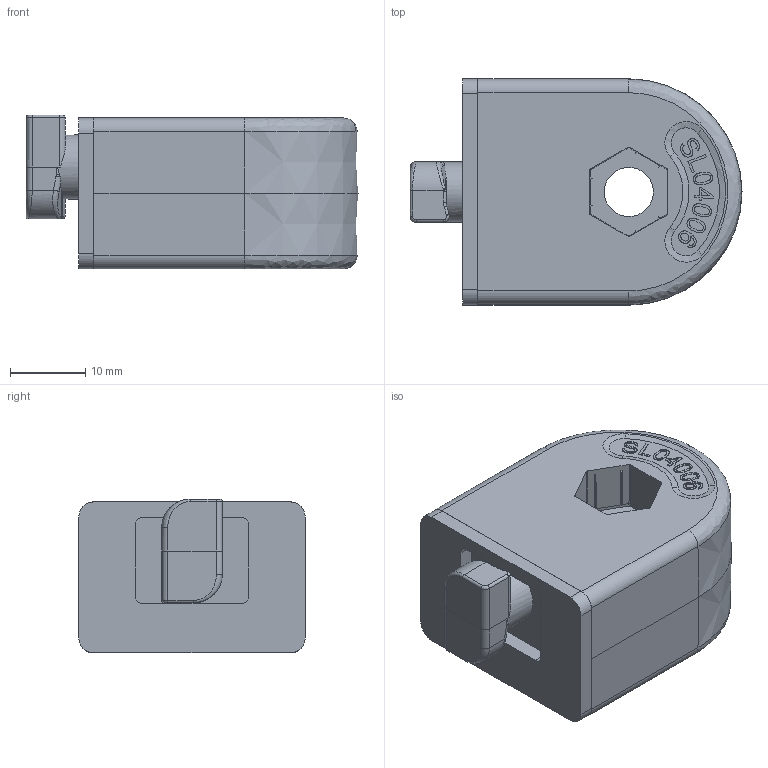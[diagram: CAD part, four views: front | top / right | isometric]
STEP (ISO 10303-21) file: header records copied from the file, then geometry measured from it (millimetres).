
FILE_DESCRIPTION (( 'STEP AP214' ), '1' );
FILE_NAME ('SL04006.step', '2024-12-03T16:31:17', ( '' ), ( '' ), 'SwSTEP 2.0', 'SolidWorks 2023', '' );
FILE_SCHEMA (( 'AUTOMOTIVE_DESIGN' ));
Length unit declared in the file: millimetre
Products named in the file (1): SL04006
Bounding box: 44 x 30 x 20.38 mm (x, y, z)
Volume: 18983.6 mm3; surface area: 6242 mm2
Topology: 2 solids, 2 shells, 334 faces, 846 edges, 536 vertices
Faces by surface type: plane 147, bspline 132, cylinder 47, cone 8
Full cylindrical faces by diameter (mm): 2.5 x2, 2.687 x2, 6.5 x1
Entity records: 12344 total; most frequent: CARTESIAN_POINT 5370, ORIENTED_EDGE 1670, DIRECTION 1001, EDGE_CURVE 835, VERTEX_POINT 533, VECTOR 465, LINE 465, EDGE_LOOP 366
